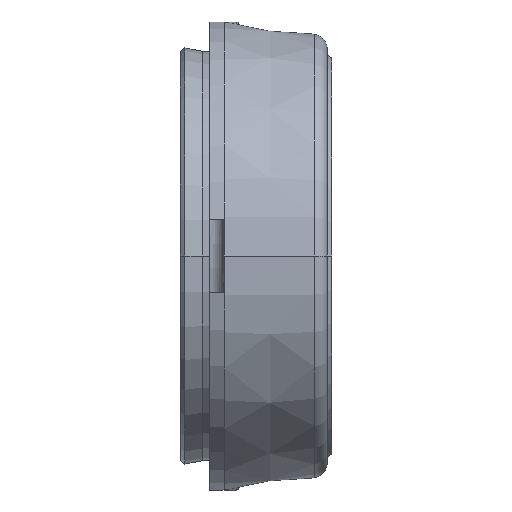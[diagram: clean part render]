
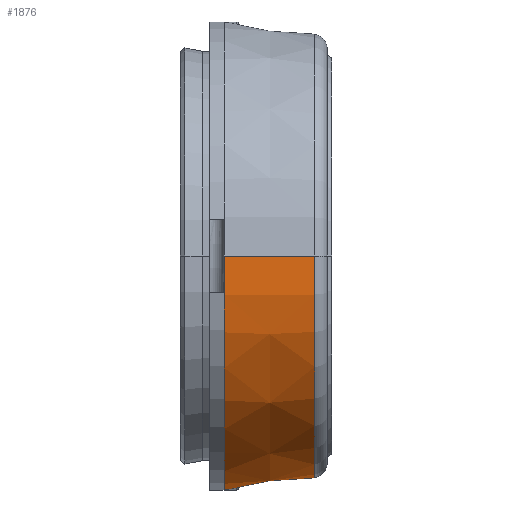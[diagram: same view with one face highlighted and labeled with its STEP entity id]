
A CAD part, left-side view. The second image highlights one B-rep face of the part: STEP entity #1876.
In plain terms, the highlighted conical face has half-angle 8.13 degrees and reference radius 15.561 mm.
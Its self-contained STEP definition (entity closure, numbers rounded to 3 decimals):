
#252=CARTESIAN_POINT('',(0.,7.,0.));
#253=DIRECTION('',(0.,1.,0.));
#254=DIRECTION('',(0.988,0.,-0.156));
#255=AXIS2_PLACEMENT_3D('',#252,#253,#254);
#278=CARTESIAN_POINT('',(15.803,7.,-2.5));
#279=CARTESIAN_POINT('',(15.774,6.793,-2.5));
#280=CARTESIAN_POINT('',(15.714,6.379,-2.5));
#281=CARTESIAN_POINT('',(15.624,5.759,-2.5));
#282=CARTESIAN_POINT('',(15.564,5.347,-2.5));
#283=CARTESIAN_POINT('',(15.535,5.141,-2.5));
#298=CARTESIAN_POINT('',(0.,5.141,0.));
#299=DIRECTION('',(0.,1.,0.));
#300=DIRECTION('',(1.,0.,0.));
#301=AXIS2_PLACEMENT_3D('',#298,#299,#300);
#303=DIRECTION('',(-0.141,0.99,0.));
#304=VECTOR('',#303,6.204);
#305=CARTESIAN_POINT('',(-15.123,0.859,
0.));
#306=LINE('',#305,#304);
#307=CARTESIAN_POINT('',(0.,0.859,0.));
#308=DIRECTION('',(0.,1.,0.));
#309=DIRECTION('',(1.,0.,0.));
#310=AXIS2_PLACEMENT_3D('',#307,#308,#309);
#312=DIRECTION('',(0.141,0.99,0.));
#313=VECTOR('',#312,4.326);
#314=CARTESIAN_POINT('',(15.123,0.859,
0.));
#315=LINE('',#314,#313);
#1348=CARTESIAN_POINT('',(15.803,7.,-2.5));
#1349=VERTEX_POINT('',#1348);
#1352=CARTESIAN_POINT('',(-16.,7.,0.));
#1353=VERTEX_POINT('',#1352);
#1354=CARTESIAN_POINT('',(15.123,0.859,0.));
#1355=CARTESIAN_POINT('',(-15.123,0.859,0.));
#1356=VERTEX_POINT('',#1354);
#1357=VERTEX_POINT('',#1355);
#1410=CARTESIAN_POINT('',(15.734,5.141,0.));
#1411=CARTESIAN_POINT('',(15.535,5.141,-2.5));
#1412=VERTEX_POINT('',#1410);
#1413=VERTEX_POINT('',#1411);
#1859=CARTESIAN_POINT('',(0.,3.929,0.));
#1860=DIRECTION('',(0.,1.,0.));
#1861=DIRECTION('',(1.,0.,0.));
#1862=AXIS2_PLACEMENT_3D('',#1859,#1860,#1861);
#1863=CONICAL_SURFACE('',#1862,15.561,8.13);
#1865=ORIENTED_EDGE('',*,*,#1864,.T.);
#1866=ORIENTED_EDGE('',*,*,#1841,.F.);
#1867=ORIENTED_EDGE('',*,*,#1795,.T.);
#1869=ORIENTED_EDGE('',*,*,#1868,.F.);
#1871=ORIENTED_EDGE('',*,*,#1870,.F.);
#1873=ORIENTED_EDGE('',*,*,#1872,.T.);
#1874=EDGE_LOOP('',(#1865,#1866,#1867,#1869,#1871,#1873));
#1875=FACE_OUTER_BOUND('',#1874,.F.);
#1876=ADVANCED_FACE('',(#1875),#1863,.T.);
#256=CIRCLE('',#255,16.);
#284=B_SPLINE_CURVE_WITH_KNOTS('',3,(#278,#279,#280,#281,#282,#283),
.UNSPECIFIED.,.F.,.F.,(4,1,1,4),(0.,0.333,0.667,1.),
.UNSPECIFIED.);
#302=CIRCLE('',#301,15.734);
#311=CIRCLE('',#310,15.123);
#1795=EDGE_CURVE('',#1349,#1353,#256,.T.);
#1841=EDGE_CURVE('',#1349,#1413,#284,.T.);
#1864=EDGE_CURVE('',#1412,#1413,#302,.T.);
#1868=EDGE_CURVE('',#1357,#1353,#306,.T.);
#1870=EDGE_CURVE('',#1356,#1357,#311,.T.);
#1872=EDGE_CURVE('',#1356,#1412,#315,.T.);
